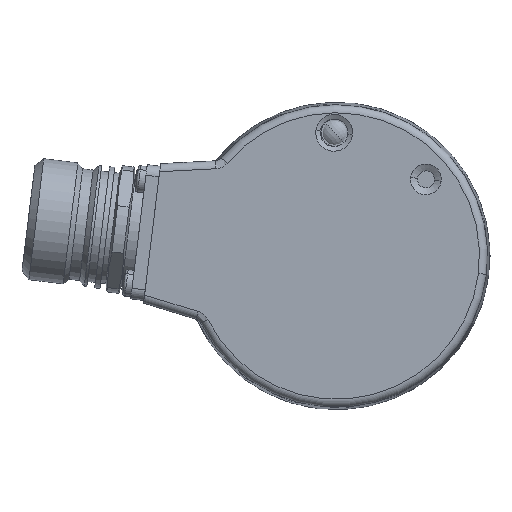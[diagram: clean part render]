
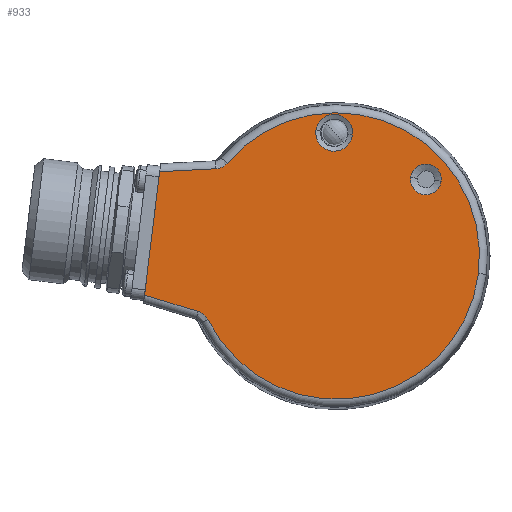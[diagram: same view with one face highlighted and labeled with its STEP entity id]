
A CAD part, left-side view. The second image highlights one B-rep face of the part: STEP entity #933.
In plain terms, the highlighted planar face has unit normal (-1, 0, 0).
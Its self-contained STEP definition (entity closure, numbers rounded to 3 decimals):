
#860 = VERTEX_POINT ( 'NONE', #6652 ) ;
#861 = VERTEX_POINT ( 'NONE', #6653 ) ;
#863 = EDGE_CURVE ( 'NONE', #861, #860, #6688, .T. ) ;
#880 = EDGE_CURVE ( 'NONE', #881, #882, #6561, .T. ) ;
#881 = VERTEX_POINT ( 'NONE', #6552 ) ;
#882 = VERTEX_POINT ( 'NONE', #6551 ) ;
#932 = EDGE_CURVE ( 'NONE', #1052, #1055, #6690, .T. ) ;
#933 = ADVANCED_FACE ( 'NONE', ( #6515, #6514, #6513 ), #6732, .F. ) ;
#934 = EDGE_LOOP ( 'NONE', ( #935, #936 ) ) ;
#935 = ORIENTED_EDGE ( 'NONE', *, *, #1054, .T. ) ;
#936 = ORIENTED_EDGE ( 'NONE', *, *, #932, .T. ) ;
#982 = EDGE_CURVE ( 'NONE', #1037, #882, #6901, .T. ) ;
#985 = EDGE_CURVE ( 'NONE', #1004, #1010, #6900, .T. ) ;
#997 = EDGE_CURVE ( 'NONE', #1003, #881, #7078, .T. ) ;
#1003 = VERTEX_POINT ( 'NONE', #6921 ) ;
#1004 = VERTEX_POINT ( 'NONE', #6920 ) ;
#1006 = EDGE_CURVE ( 'NONE', #1003, #1010, #6918, .T. ) ;
#1010 = VERTEX_POINT ( 'NONE', #6919 ) ;
#1031 = VERTEX_POINT ( 'NONE', #7238 ) ;
#1037 = VERTEX_POINT ( 'NONE', #7357 ) ;
#1045 = EDGE_CURVE ( 'NONE', #1037, #1031, #7279, .T. ) ;
#1052 = VERTEX_POINT ( 'NONE', #7205 ) ;
#1054 = EDGE_CURVE ( 'NONE', #1055, #1052, #7204, .T. ) ;
#1055 = VERTEX_POINT ( 'NONE', #7199 ) ;
#1065 = EDGE_CURVE ( 'NONE', #860, #861, #7264, .T. ) ;
#1170 = EDGE_LOOP ( 'NONE', ( #1171, #1172 ) ) ;
#1171 = ORIENTED_EDGE ( 'NONE', *, *, #863, .T. ) ;
#1172 = ORIENTED_EDGE ( 'NONE', *, *, #1065, .T. ) ;
#1173 = EDGE_LOOP ( 'NONE', ( #1174, #1206, #1207, #1209, #1210, #1211, #1212 ) ) ;
#1174 = ORIENTED_EDGE ( 'NONE', *, *, #982, .F. ) ;
#1206 = ORIENTED_EDGE ( 'NONE', *, *, #1045, .T. ) ;
#1207 = ORIENTED_EDGE ( 'NONE', *, *, #1208, .F. ) ;
#1208 = EDGE_CURVE ( 'NONE', #1004, #1031, #8416, .T. ) ;
#1209 = ORIENTED_EDGE ( 'NONE', *, *, #985, .T. ) ;
#1210 = ORIENTED_EDGE ( 'NONE', *, *, #1006, .F. ) ;
#1211 = ORIENTED_EDGE ( 'NONE', *, *, #997, .T. ) ;
#1212 = ORIENTED_EDGE ( 'NONE', *, *, #880, .T. ) ;
#6513 = FACE_OUTER_BOUND ( 'NONE', #1173, .T. ) ;
#6514 = FACE_BOUND ( 'NONE', #1170, .T. ) ;
#6515 = FACE_BOUND ( 'NONE', #934, .T. ) ;
#6516 = DIRECTION ( 'NONE',  ( 0., -0.993, -0.122 ) ) ;
#6517 = DIRECTION ( 'NONE',  ( 1., 0., 0. ) ) ;
#6518 = CARTESIAN_POINT ( 'NONE',  ( -30.5, 0.406, 23.246 ) ) ;
#6519 = AXIS2_PLACEMENT_3D ( 'NONE', #6518, #6517, #6516 ) ;
#6551 = CARTESIAN_POINT ( 'NONE',  ( -30.5, 20.579, 17.512 ) ) ;
#6552 = CARTESIAN_POINT ( 'NONE',  ( -30.5, -26.821, -3.293 ) ) ;
#6553 = DIRECTION ( 'NONE',  ( 0., -0.993, -0.122 ) ) ;
#6554 = DIRECTION ( 'NONE',  ( -1., 0., 0. ) ) ;
#6555 = CARTESIAN_POINT ( 'NONE',  ( -30.5, 0., 0. ) ) ;
#6556 = AXIS2_PLACEMENT_3D ( 'NONE', #6555, #6554, #6553 ) ;
#6561 = CIRCLE ( 'NONE', #6556, 27.022 ) ;
#6652 = CARTESIAN_POINT ( 'NONE',  ( -30.5, -19.796, 14.097 ) ) ;
#6653 = CARTESIAN_POINT ( 'NONE',  ( -30.5, -14.042, 14.804 ) ) ;
#6684 = DIRECTION ( 'NONE',  ( 0., -0.993, -0.122 ) ) ;
#6685 = DIRECTION ( 'NONE',  ( 1., 0., 0. ) ) ;
#6686 = CARTESIAN_POINT ( 'NONE',  ( -30.5, -16.919, 14.45 ) ) ;
#6687 = AXIS2_PLACEMENT_3D ( 'NONE', #6686, #6685, #6684 ) ;
#6688 = CIRCLE ( 'NONE', #6687, 2.899 ) ;
#6690 = CIRCLE ( 'NONE', #6519, 3.466 ) ;
#6726 = DIRECTION ( 'NONE',  ( 0., -0.993, -0.122 ) ) ;
#6727 = DIRECTION ( 'NONE',  ( 1., 0., 0. ) ) ;
#6728 = CARTESIAN_POINT ( 'NONE',  ( -30.5, 0., 0. ) ) ;
#6729 = AXIS2_PLACEMENT_3D ( 'NONE', #6728, #6727, #6726 ) ;
#6732 = PLANE ( 'NONE',  #6729 ) ;
#6887 = CARTESIAN_POINT ( 'NONE',  ( -30.5, 20.579, 17.512 ) ) ;
#6888 = CARTESIAN_POINT ( 'NONE',  ( -30.5, 20.712, 17.356 ) ) ;
#6889 = CARTESIAN_POINT ( 'NONE',  ( -30.5, 20.859, 17.216 ) ) ;
#6890 = CARTESIAN_POINT ( 'NONE',  ( -30.5, 21.178, 16.967 ) ) ;
#6891 = CARTESIAN_POINT ( 'NONE',  ( -30.5, 21.352, 16.857 ) ) ;
#6892 = CARTESIAN_POINT ( 'NONE',  ( -30.5, 21.716, 16.677 ) ) ;
#6893 = CARTESIAN_POINT ( 'NONE',  ( -30.5, 21.906, 16.606 ) ) ;
#6894 = CARTESIAN_POINT ( 'NONE',  ( -30.5, 22.299, 16.503 ) ) ;
#6895 = CARTESIAN_POINT ( 'NONE',  ( -30.5, 22.503, 16.471 ) ) ;
#6896 = CARTESIAN_POINT ( 'NONE',  ( -30.5, 22.708, 16.461 ) ) ;
#6897 = DIRECTION ( 'NONE',  ( 0., -0.956, -0.292 ) ) ;
#6898 = VECTOR ( 'NONE', #6897, 1000. ) ;
#6899 = CARTESIAN_POINT ( 'NONE',  ( -30.5, 25.362, -10.678 ) ) ;
#6900 = LINE ( 'NONE', #6899, #6898 ) ;
#6901 = B_SPLINE_CURVE_WITH_KNOTS ( 'NONE', 3,
 ( #6896, #6895, #6894, #6893, #6892, #6891, #6890, #6889, #6888, #6887 ),
 .UNSPECIFIED., .F., .F.,
 ( 4, 2, 2, 2, 4 ),
 ( 0., 0.001, 0.001, 0.002, 0.002 ),
 .UNSPECIFIED. ) ;
#6908 = CARTESIAN_POINT ( 'NONE',  ( -30.5, 26.015, -10.478 ) ) ;
#6909 = CARTESIAN_POINT ( 'NONE',  ( -30.5, 25.819, -10.538 ) ) ;
#6910 = CARTESIAN_POINT ( 'NONE',  ( -30.5, 25.632, -10.617 ) ) ;
#6911 = CARTESIAN_POINT ( 'NONE',  ( -30.5, 25.277, -10.811 ) ) ;
#6912 = CARTESIAN_POINT ( 'NONE',  ( -30.5, 25.107, -10.927 ) ) ;
#6913 = CARTESIAN_POINT ( 'NONE',  ( -30.5, 24.797, -11.19 ) ) ;
#6914 = CARTESIAN_POINT ( 'NONE',  ( -30.5, 24.657, -11.336 ) ) ;
#6915 = CARTESIAN_POINT ( 'NONE',  ( -30.5, 24.406, -11.656 ) ) ;
#6916 = CARTESIAN_POINT ( 'NONE',  ( -30.5, 24.296, -11.83 ) ) ;
#6917 = CARTESIAN_POINT ( 'NONE',  ( -30.5, 24.205, -12.014 ) ) ;
#6918 = B_SPLINE_CURVE_WITH_KNOTS ( 'NONE', 3,
 ( #6917, #6916, #6915, #6914, #6913, #6912, #6911, #6910, #6909, #6908 ),
 .UNSPECIFIED., .F., .F.,
 ( 4, 2, 2, 2, 4 ),
 ( 0., 0.001, 0.001, 0.002, 0.002 ),
 .UNSPECIFIED. ) ;
#6919 = CARTESIAN_POINT ( 'NONE',  ( -30.5, 26.015, -10.478 ) ) ;
#6920 = CARTESIAN_POINT ( 'NONE',  ( -30.5, 36.168, -7.374 ) ) ;
#6921 = CARTESIAN_POINT ( 'NONE',  ( -30.5, 24.205, -12.014 ) ) ;
#7070 = DIRECTION ( 'NONE',  ( 0., -0.993, -0.122 ) ) ;
#7071 = DIRECTION ( 'NONE',  ( -1., 0., 0. ) ) ;
#7072 = CARTESIAN_POINT ( 'NONE',  ( -30.5, 0., 0. ) ) ;
#7073 = AXIS2_PLACEMENT_3D ( 'NONE', #7072, #7071, #7070 ) ;
#7078 = CIRCLE ( 'NONE', #7073, 27.022 ) ;
#7199 = CARTESIAN_POINT ( 'NONE',  ( -30.5, 3.846, 23.669 ) ) ;
#7200 = DIRECTION ( 'NONE',  ( 0., -0.993, -0.122 ) ) ;
#7201 = DIRECTION ( 'NONE',  ( 1., 0., 0. ) ) ;
#7202 = CARTESIAN_POINT ( 'NONE',  ( -30.5, 0.406, 23.246 ) ) ;
#7203 = AXIS2_PLACEMENT_3D ( 'NONE', #7202, #7201, #7200 ) ;
#7204 = CIRCLE ( 'NONE', #7203, 3.466 ) ;
#7205 = CARTESIAN_POINT ( 'NONE',  ( -30.5, -3.034, 22.824 ) ) ;
#7238 = CARTESIAN_POINT ( 'NONE',  ( -30.5, 33.31, 15.905 ) ) ;
#7256 = DIRECTION ( 'NONE',  ( 0., -0.993, -0.122 ) ) ;
#7257 = DIRECTION ( 'NONE',  ( 1., 0., 0. ) ) ;
#7258 = CARTESIAN_POINT ( 'NONE',  ( -30.5, -16.919, 14.45 ) ) ;
#7259 = AXIS2_PLACEMENT_3D ( 'NONE', #7258, #7257, #7256 ) ;
#7264 = CIRCLE ( 'NONE', #7259, 2.899 ) ;
#7276 = DIRECTION ( 'NONE',  ( 0., 0.999, -0.052 ) ) ;
#7277 = VECTOR ( 'NONE', #7276, 1000. ) ;
#7278 = CARTESIAN_POINT ( 'NONE',  ( -30.5, 33.046, 15.919 ) ) ;
#7279 = LINE ( 'NONE', #7278, #7277 ) ;
#7357 = CARTESIAN_POINT ( 'NONE',  ( -30.5, 22.708, 16.461 ) ) ;
#8413 = DIRECTION ( 'NONE',  ( 0., -0.122, 0.993 ) ) ;
#8414 = VECTOR ( 'NONE', #8413, 1000. ) ;
#8415 = CARTESIAN_POINT ( 'NONE',  ( -30.5, 36.354, -8.886 ) ) ;
#8416 = LINE ( 'NONE', #8415, #8414 ) ;
